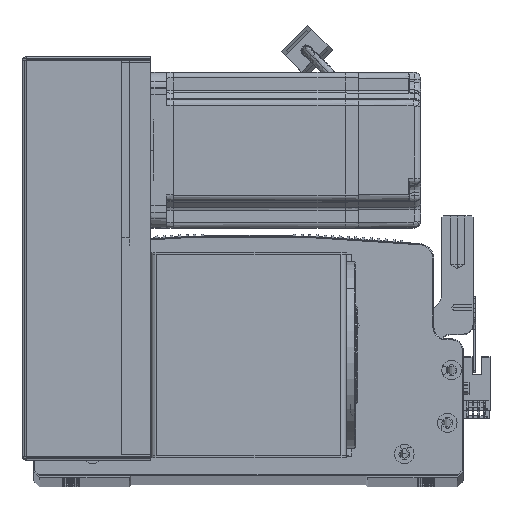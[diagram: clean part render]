
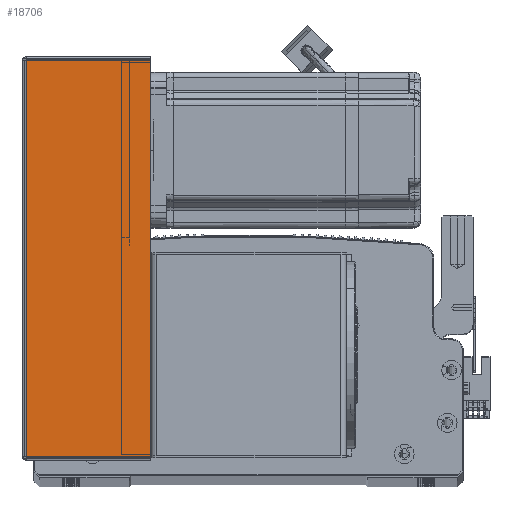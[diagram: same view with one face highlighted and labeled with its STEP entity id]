
A CAD part, top view. The second image highlights one B-rep face of the part: STEP entity #18706.
In plain terms, the highlighted planar face has unit normal (0, 0, 1) as drawn and (0, 1, 0) by its records, which use the part's own axes.
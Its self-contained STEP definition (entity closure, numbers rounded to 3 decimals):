
#2209 = DIRECTION ( 'NONE',  ( 0., 0., -1. ) ) ;
#12663 = VECTOR ( 'NONE', #49737, 1000. ) ;
#18464 = DIRECTION ( 'NONE',  ( 1., 0., 0. ) ) ;
#18706 = ADVANCED_FACE ( 'NONE', ( #66503 ), #20108, .F. ) ;
#19773 = CARTESIAN_POINT ( 'NONE',  ( 0., 107.5, 0. ) ) ;
#20108 = PLANE ( 'NONE',  #93514 ) ;
#23739 = CARTESIAN_POINT ( 'NONE',  ( 64.5, 107.5, -0.707 ) ) ;
#23960 = CARTESIAN_POINT ( 'NONE',  ( 0.737, 107.5, -0.707 ) ) ;
#24440 = VECTOR ( 'NONE', #18464, 1000. ) ;
#28600 = VECTOR ( 'NONE', #2209, 1000. ) ;
#29429 = EDGE_CURVE ( 'NONE', #75557, #40291, #58431, .T. ) ;
#31520 = CARTESIAN_POINT ( 'NONE',  ( 64.5, 107.5, -203.293 ) ) ;
#32268 = CARTESIAN_POINT ( 'NONE',  ( 0.737, 107.5, 0. ) ) ;
#35126 = DIRECTION ( 'NONE',  ( 1., 0., 0. ) ) ;
#39165 = ORIENTED_EDGE ( 'NONE', *, *, #29429, .T. ) ;
#40291 = VERTEX_POINT ( 'NONE', #23739 ) ;
#40381 = EDGE_CURVE ( 'NONE', #75557, #51119, #47291, .T. ) ;
#41689 = CARTESIAN_POINT ( 'NONE',  ( 0., 107.5, -0.707 ) ) ;
#47291 = LINE ( 'NONE', #32268, #28600 ) ;
#49737 = DIRECTION ( 'NONE',  ( 0., 0., -1. ) ) ;
#50757 = VERTEX_POINT ( 'NONE', #31520 ) ;
#51119 = VERTEX_POINT ( 'NONE', #88611 ) ;
#53269 = ORIENTED_EDGE ( 'NONE', *, *, #86882, .T. ) ;
#56204 = DIRECTION ( 'NONE',  ( 1., 0., 0. ) ) ;
#58431 = LINE ( 'NONE', #41689, #24440 ) ;
#60355 = ORIENTED_EDGE ( 'NONE', *, *, #40381, .F. ) ;
#66503 = FACE_OUTER_BOUND ( 'NONE', #82902, .T. ) ;
#67625 = LINE ( 'NONE', #86331, #12663 ) ;
#72414 = DIRECTION ( 'NONE',  ( 0., -1., 0. ) ) ;
#75557 = VERTEX_POINT ( 'NONE', #23960 ) ;
#75637 = ORIENTED_EDGE ( 'NONE', *, *, #84427, .F. ) ;
#76713 = LINE ( 'NONE', #86225, #77932 ) ;
#77932 = VECTOR ( 'NONE', #56204, 1000. ) ;
#82902 = EDGE_LOOP ( 'NONE', ( #60355, #39165, #53269, #75637 ) ) ;
#84427 = EDGE_CURVE ( 'NONE', #51119, #50757, #76713, .T. ) ;
#86225 = CARTESIAN_POINT ( 'NONE',  ( 0., 107.5, -203.293 ) ) ;
#86331 = CARTESIAN_POINT ( 'NONE',  ( 64.5, 107.5, -204. ) ) ;
#86882 = EDGE_CURVE ( 'NONE', #40291, #50757, #67625, .T. ) ;
#88611 = CARTESIAN_POINT ( 'NONE',  ( 0.737, 107.5, -203.293 ) ) ;
#93514 = AXIS2_PLACEMENT_3D ( 'NONE', #19773, #72414, #35126 ) ;
